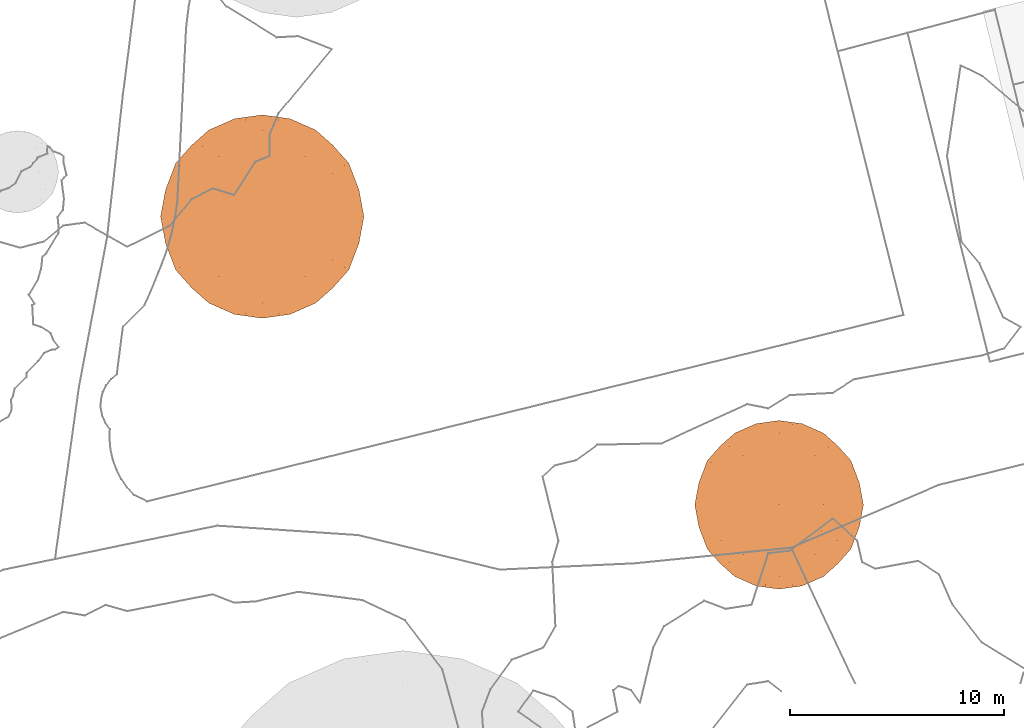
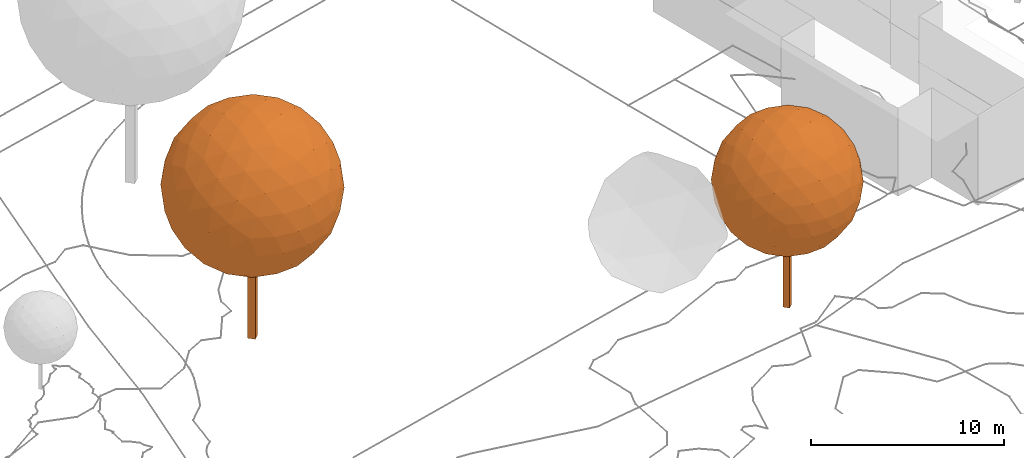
# Not in any storey, part 399 of 494: 2 proxies.
"""IFC2X3 model written with IfcOpenShell, lengths in metres."""

import ifcopenshell
import ifcopenshell.guid

model = None  # the IFC model being written
_history = None  # IfcOwnerHistory: only IFC2X3 demands one
_inside = {}  # id of a spatial element -> (the spatial element, [elements in it])
_under = {}  # id of a project, library or spatial element -> (it, [spatial elements below it])
_declared = {}  # id of a project -> (the project, [libraries it declares])
_typed = {}  # id of a type object -> (the type object, [elements of that type])
_made_of = {}  # id of a material, layer set ... -> (it, [elements and type objects made of it])


def new_model(schema):
    """Start an empty IFC model of exactly this schema.

    Asked for "IFC4X3", IfcOpenShell would pick the latest addendum, in which some entities
    have other attributes; the version numbers below select the first issue.
    IFC2X3 requires an IfcOwnerHistory on every rooted entity: one is made here for all.
    """
    global model, _history
    if schema == "IFC4X3":
        model = ifcopenshell.file(schema_version=(4, 3, 0, 0))
    else:
        model = ifcopenshell.file(schema=schema)
    _inside.clear()
    _under.clear()
    _declared.clear()
    _typed.clear()
    _made_of.clear()
    _history = None
    if model.schema == "IFC2X3":
        org = make("IfcOrganization", Name="unknown")
        user = make(
            "IfcPersonAndOrganization",
            ThePerson=make("IfcPerson", FamilyName="unknown"),
            TheOrganization=org,
        )
        app = make(
            "IfcApplication",
            ApplicationDeveloper=org,
            Version="unknown",
            ApplicationFullName="unknown",
            ApplicationIdentifier="unknown",
        )
        _history = make(
            "IfcOwnerHistory",
            OwningUser=user,
            OwningApplication=app,
            ChangeAction="ADDED",
            CreationDate=0,
        )
    return model


def make(cls, **values):
    """One entity of the class cls with the attributes given. An attribute that is None is left unset."""
    return model.create_entity(
        cls, **{name: value for name, value in values.items() if value is not None}
    )


def rooted(cls, **values):
    """An entity with a GlobalId (a new one), such as an element, a storey or a relation."""
    return make(cls, GlobalId=ifcopenshell.guid.new(), OwnerHistory=_history, **values)


def si_unit(unit_type, name, prefix=None):
    """IfcSIUnit, for example si_unit("LENGTHUNIT", "METRE", prefix="MILLI")."""
    return make("IfcSIUnit", UnitType=unit_type, Prefix=prefix, Name=name)


def assignment(units):
    """IfcUnitAssignment: the units of a project."""
    return None if units is None else make("IfcUnitAssignment", Units=units)


def point(xyz):
    """IfcCartesianPoint."""
    return None if xyz is None else make("IfcCartesianPoint", Coordinates=xyz)


def direction(xyz):
    """IfcDirection."""
    return None if xyz is None else make("IfcDirection", DirectionRatios=xyz)


def frame(location, z_axis=None, x_axis=None):
    """IfcAxis2Placement3D, a coordinate frame: its origin and axes. An axis left out is left unset."""
    return make(
        "IfcAxis2Placement3D",
        Location=point(location),
        Axis=direction(z_axis),
        RefDirection=direction(x_axis),
    )


def origin_with_axes():
    """The frame at (0, 0, 0) with the z axis (0, 0, 1) and the x axis (1, 0, 0) written out."""
    return frame((0.0, 0.0, 0.0), z_axis=(0.0, 0.0, 1.0), x_axis=(1.0, 0.0, 0.0))


def place(relative_to, where):
    """IfcLocalPlacement: puts the frame where relative to a parent placement (None: the world)."""
    return make(
        "IfcLocalPlacement", PlacementRelTo=relative_to, RelativePlacement=where
    )


def context(
    kind, dimensions, precision=None, world=None, true_north=None, identifier=None
):
    """IfcGeometricRepresentationContext, for example the 3D "Model" context."""
    return make(
        "IfcGeometricRepresentationContext",
        ContextIdentifier=identifier,
        ContextType=kind,
        CoordinateSpaceDimension=dimensions,
        Precision=precision,
        WorldCoordinateSystem=world,
        TrueNorth=true_north,
    )


def subcontext(parent, identifier, kind, view, scale=None):
    """IfcGeometricRepresentationSubContext, for example "Body" below "Model"."""
    return make(
        "IfcGeometricRepresentationSubContext",
        ContextIdentifier=identifier,
        ContextType=kind,
        ParentContext=parent,
        TargetScale=scale,
        TargetView=view,
    )


def project(units=None, contexts=None):
    """IfcProject with its units and contexts."""
    return rooted(
        "IfcProject",
        Name="project",
        RepresentationContexts=contexts,
        UnitsInContext=assignment(units),
    )


def faces_of(points, faces, orient=None, outer=None):
    """IfcFace entities. A face is a list of loops; a loop is a list of indices into points, from 0.

    orient and outer hold one flag for each loop. By default every Orientation is true, the
    first loop of a face is its IfcFaceOuterBound and the others are IfcFaceBound.
    """
    made = []
    for i, loops in enumerate(faces):
        bounds = []
        for j, loop in enumerate(loops):
            is_outer = j == 0 if outer is None else outer[i][j]
            bounds.append(
                make(
                    "IfcFaceOuterBound" if is_outer else "IfcFaceBound",
                    Bound=make("IfcPolyLoop", Polygon=[points[k] for k in loop]),
                    Orientation=True if orient is None else orient[i][j],
                )
            )
        made.append(make("IfcFace", Bounds=bounds))
    return made


def faceted_brep(points, faces, orient=None, outer=None, voids=None):
    """IfcFacetedBrep: a solid bounded by flat faces; with voids (closed shells), ...WithVoids."""
    shared = [point(p) for p in points]
    hull = make("IfcClosedShell", CfsFaces=faces_of(shared, faces, orient, outer))
    if voids is None:
        return make("IfcFacetedBrep", Outer=hull)
    return make(
        "IfcFacetedBrepWithVoids",
        Outer=hull,
        Voids=[
            make(cls, CfsFaces=faces_of(shared, fs, o, b)) for cls, fs, o, b in voids
        ],
    )


def shape(context_of_items, identifier, shape_type, items):
    """IfcShapeRepresentation: the items that make up one representation, for example the "Body"."""
    return make(
        "IfcShapeRepresentation",
        ContextOfItems=context_of_items,
        RepresentationIdentifier=identifier,
        RepresentationType=shape_type,
        Items=items,
    )


def made_of(thing, what):
    """Note that an element or type object is made of a material, layer set ...; save() writes the relation."""
    if what is not None:
        _made_of.setdefault(what.id(), (what, []))[1].append(thing)
    return thing


def element(
    cls,
    number,
    at=None,
    inside=None,
    cuts=None,
    type_object=None,
    material=None,
    context=None,
    identifier="Body",
    shape_type=None,
    held_by="IfcProductDefinitionShape",
    body=None,
    shapes=None,
    **own,
):
    """One element of the class cls, such as IfcWall. Its Tag is "e" and its number.

    at: its placement. inside: the storey or other place that contains it. cuts: it is an
    opening in that element (IfcRelVoidsElement). A single representation is given by context,
    identifier, shape_type and body (its items); several are given by shapes. held_by: the class
    of the entity that holds the representations. save() writes the other relations.
    """
    e = rooted(cls, Tag="e%d" % number, ObjectPlacement=at, **own)
    if body is not None:
        shapes = [shape(context, identifier, shape_type, body)]
    if shapes is not None:
        e.Representation = make(held_by, Representations=shapes)
    if inside is not None:
        _inside.setdefault(inside.id(), (inside, []))[1].append(e)
    if cuts is not None:
        rooted(
            "IfcRelVoidsElement", RelatingBuildingElement=cuts, RelatedOpeningElement=e
        )
    if type_object is not None:
        _typed.setdefault(type_object.id(), (type_object, []))[1].append(e)
    return made_of(e, material)


def aggregate(whole, parts):
    """IfcRelAggregates: a whole, such as a stair, and the parts it consists of."""
    return rooted("IfcRelAggregates", RelatingObject=whole, RelatedObjects=parts)


def save(model, path):
    """Write the relations noted so far, then the file.

    IfcRelAggregates (storeys below a building ...), IfcRelContainedInSpatialStructure (elements
    in a storey), IfcRelDefinesByType, IfcRelAssociatesMaterial and IfcRelDeclares: one each for
    every whole, place, type object, material and project.
    """
    for whole, parts in _under.values():
        aggregate(whole, parts)
    for where, things in _inside.values():
        rooted(
            "IfcRelContainedInSpatialStructure",
            RelatedElements=things,
            RelatingStructure=where,
        )
    for kind, things in _typed.values():
        rooted("IfcRelDefinesByType", RelatedObjects=things, RelatingType=kind)
    for what, things in _made_of.values():
        rooted("IfcRelAssociatesMaterial", RelatedObjects=things, RelatingMaterial=what)
    for by, libraries in _declared.values():
        rooted("IfcRelDeclares", RelatingContext=by, RelatedDefinitions=libraries)
    model.write(path)


model = new_model("IFC2X3")

# Units and contexts
model_context = context("Model", 3, precision=1e-05, world=origin_with_axes())
body_context = subcontext(model_context, "Body", "Model", "MODEL_VIEW")
ifc_project = project(units=[si_unit("AREAUNIT", "SQUARE_METRE"), si_unit("LENGTHUNIT", "METRE")], contexts=[model_context])

# Proxies
proxy_1_placement = place(None, frame((246.9927320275, 318.3457334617, 540.2406442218), z_axis=(0.0, 0.0, 1.0), x_axis=(1.0, 0.0, 0.0)))
element("IfcBuildingElementProxy", 1, at=proxy_1_placement, Name="Tree TR3 CD95", ObjectType="NOTDEFINED", context=body_context, shape_type="Brep", body=[
    faceted_brep([(0.0, 0.3029324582, 0.0), (0.3029324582, 0.0, 0.0), (0.0, -0.3029324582, 0.0), (-0.3029324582, 0.0, 0.0), (0.0, -0.3029324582, 9.5169038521), (0.3029324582, 0.0, 9.5169038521), (0.0, 0.3029324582, 9.5169038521), (-0.3029324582, 0.0, 9.5169038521)], [[[0, 1, 2]], [[2, 3, 0]], [[4, 5, 6]], [[6, 7, 4]], [[4, 7, 2]], [[2, 7, 3]], [[7, 6, 3]], [[3, 6, 0]], [[5, 4, 1]], [[1, 4, 2]], [[6, 5, 0]], [[0, 5, 1]]]),
    faceted_brep([(-2.5016662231, 4.0477809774, 9.5169038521), (-3.3013210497, 3.3406542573, 10.281216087), (-2.0646378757, 4.1049664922, 10.7535870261), (-3.8496684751, 2.379225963, 10.9873463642), (-2.7969478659, 3.2747236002, 11.5407943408), (-1.4704425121, 3.8496684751, 11.8961298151), (-4.1049664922, 1.236683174, 11.5815417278), (-3.2747236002, 2.0238904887, 12.313851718), (-4.0477809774, 0.0, 12.0185700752), (-3.3406542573, 0.7643122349, 12.8182249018), (-2.379225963, 1.4704425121, 13.3665723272), (-2.0238904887, 2.7969478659, 12.7916274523), (-0.7643122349, 3.3013210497, 12.8575581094), (-1.236683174, 2.0646378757, 13.6218703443), (0.0, 2.5016662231, 13.5646848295), (-1.3003256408, 4.5773374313, 9.5169038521), (-0.7730573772, 4.5255567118, 10.7677369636), (0.0, 4.7584519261, 9.5169038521), (0.0, 4.0477809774, 12.0185700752), (0.7643122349, 3.3013210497, 12.8575581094), (1.4704425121, 3.8496684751, 11.8961298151), (0.7730573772, 4.5255567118, 10.7677369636), (1.3003256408, 4.5773374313, 9.5169038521), (2.0646378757, 4.1049664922, 10.7535870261), (2.5016662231, 4.0477809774, 9.5169038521), (-2.0646378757, 4.1049664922, 8.2802206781), (-0.7730573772, 4.5255567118, 8.2660707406), (-1.4704425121, 3.8496684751, 7.1376778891), (0.7730573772, 4.5255567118, 8.2660707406), (2.0646378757, 4.1049664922, 8.2802206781), (1.4704425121, 3.8496684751, 7.1376778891), (0.0, 4.0477809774, 7.0152376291), (-0.7643122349, 3.3013210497, 6.1762495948), (0.7643122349, 3.3013210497, 6.1762495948), (0.0, 2.5016662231, 5.4691228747), (-3.3013210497, 3.3406542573, 8.7525916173), (-2.7969478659, 3.2747236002, 7.4930133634), (-3.8496684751, 2.379225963, 8.04646134), (-2.0238904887, 2.7969478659, 6.2421802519), (-1.236683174, 2.0646378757, 5.4119373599), (-2.379225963, 1.4704425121, 5.667235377), (-3.2747236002, 2.0238904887, 6.7199559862), (-4.1049664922, 1.236683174, 7.4522659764), (-3.3406542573, 0.7643122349, 6.2155828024), (-4.0477809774, 0.0, 7.0152376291), (-4.0477809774, 2.5016662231, 9.5169038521), (-4.5255567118, 1.2508331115, 8.7438464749), (-4.5773374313, 0.0, 8.2165782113), (-4.7584519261, 0.0, 9.5169038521), (-4.5255567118, 1.2508331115, 10.2899612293), (-4.5773374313, 0.0, 10.8172294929), (3.3013210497, 3.3406542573, 10.281216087), (2.7969478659, 3.2747236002, 11.5407943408), (3.8496684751, 2.379225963, 10.9873463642), (2.0238904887, 2.7969478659, 12.7916274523), (1.236683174, 2.0646378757, 13.6218703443), (2.379225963, 1.4704425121, 13.3665723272), (3.2747236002, 2.0238904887, 12.313851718), (4.1049664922, 1.236683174, 11.5815417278), (3.3406542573, 0.7643122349, 12.8182249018), (4.0477809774, 0.0, 12.0185700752), (0.0, 1.3003256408, 14.0942412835), (-1.2508331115, 0.7730573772, 14.0424605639), (0.0, 0.0, 14.2753557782), (-2.5016662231, 0.0, 13.5646848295), (-3.3406542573, -0.7643122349, 12.8182249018), (-2.379225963, -1.4704425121, 13.3665723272), (-1.2508331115, -0.7730573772, 14.0424605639), (0.0, -1.3003256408, 14.0942412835), (-1.236683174, -2.0646378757, 13.6218703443), (0.0, -2.5016662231, 13.5646848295), (-4.1049664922, -1.236683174, 11.5815417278), (-4.5255567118, -1.2508331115, 10.2899612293), (-3.8496684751, -2.379225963, 10.9873463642), (-4.5255567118, -1.2508331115, 8.7438464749), (-4.1049664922, -1.236683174, 7.4522659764), (-3.8496684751, -2.379225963, 8.04646134), (-4.0477809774, -2.5016662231, 9.5169038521), (-3.3013210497, -3.3406542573, 10.281216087), (-3.3013210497, -3.3406542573, 8.7525916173), (-2.5016662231, -4.0477809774, 9.5169038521), (-3.3406542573, -0.7643122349, 6.2155828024), (-2.5016662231, 0.0, 5.4691228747), (-2.379225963, -1.4704425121, 5.667235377), (-1.2508331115, 0.7730573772, 4.9913471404), (0.0, 1.3003256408, 4.9395664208), (0.0, 0.0, 4.7584519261), (-1.2508331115, -0.7730573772, 4.9913471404), (-1.236683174, -2.0646378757, 5.4119373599), (0.0, -1.3003256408, 4.9395664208), (0.0, -2.5016662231, 5.4691228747), (1.236683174, 2.0646378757, 5.4119373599), (2.0238904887, 2.7969478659, 6.2421802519), (2.379225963, 1.4704425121, 5.667235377), (2.7969478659, 3.2747236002, 7.4930133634), (3.3013210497, 3.3406542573, 8.7525916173), (3.8496684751, 2.379225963, 8.04646134), (3.2747236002, 2.0238904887, 6.7199559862), (3.3406542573, 0.7643122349, 6.2155828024), (4.1049664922, 1.236683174, 7.4522659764), (4.0477809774, 0.0, 7.0152376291), (2.5016662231, -4.0477809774, 9.5169038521), (3.3013210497, -3.3406542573, 10.281216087), (2.0646378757, -4.1049664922, 10.7535870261), (3.8496684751, -2.379225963, 10.9873463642), (2.7969478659, -3.2747236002, 11.5407943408), (1.4704425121, -3.8496684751, 11.8961298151), (4.1049664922, -1.236683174, 11.5815417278), (3.2747236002, -2.0238904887, 12.313851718), (3.3406542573, -0.7643122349, 12.8182249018), (2.379225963, -1.4704425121, 13.3665723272), (2.0238904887, -2.7969478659, 12.7916274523), (0.7643122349, -3.3013210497, 12.8575581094), (1.236683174, -2.0646378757, 13.6218703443), (1.3003256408, -4.5773374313, 9.5169038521), (0.7730573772, -4.5255567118, 10.7677369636), (0.0, -4.7584519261, 9.5169038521), (0.0, -4.0477809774, 12.0185700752), (-0.7643122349, -3.3013210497, 12.8575581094), (-1.4704425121, -3.8496684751, 11.8961298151), (-0.7730573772, -4.5255567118, 10.7677369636), (-1.3003256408, -4.5773374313, 9.5169038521), (-2.0646378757, -4.1049664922, 10.7535870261), (2.0646378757, -4.1049664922, 8.2802206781), (0.7730573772, -4.5255567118, 8.2660707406), (1.4704425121, -3.8496684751, 7.1376778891), (-0.7730573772, -4.5255567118, 8.2660707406), (-2.0646378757, -4.1049664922, 8.2802206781), (-1.4704425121, -3.8496684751, 7.1376778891), (0.0, -4.0477809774, 7.0152376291), (0.7643122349, -3.3013210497, 6.1762495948), (-0.7643122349, -3.3013210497, 6.1762495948), (3.3013210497, -3.3406542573, 8.7525916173), (2.7969478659, -3.2747236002, 7.4930133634), (3.8496684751, -2.379225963, 8.04646134), (2.0238904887, -2.7969478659, 6.2421802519), (1.236683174, -2.0646378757, 5.4119373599), (2.379225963, -1.4704425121, 5.667235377), (3.2747236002, -2.0238904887, 6.7199559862), (4.1049664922, -1.236683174, 7.4522659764), (3.3406542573, -0.7643122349, 6.2155828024), (4.0477809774, -2.5016662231, 9.5169038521), (4.5255567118, -1.2508331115, 8.7438464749), (4.5773374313, 0.0, 8.2165782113), (4.7584519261, 0.0, 9.5169038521), (4.5255567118, -1.2508331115, 10.2899612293), (4.5773374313, 0.0, 10.8172294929), (1.2508331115, -0.7730573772, 14.0424605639), (2.5016662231, 0.0, 13.5646848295), (1.2508331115, 0.7730573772, 14.0424605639), (-2.7969478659, -3.2747236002, 11.5407943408), (-2.0238904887, -2.7969478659, 12.7916274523), (-3.2747236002, -2.0238904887, 12.313851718), (-2.0238904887, -2.7969478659, 6.2421802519), (-2.7969478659, -3.2747236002, 7.4930133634), (-3.2747236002, -2.0238904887, 6.7199559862), (2.5016662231, 0.0, 5.4691228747), (1.2508331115, -0.7730573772, 4.9913471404), (1.2508331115, 0.7730573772, 4.9913471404), (4.5255567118, 1.2508331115, 10.2899612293), (4.5255567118, 1.2508331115, 8.7438464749), (4.0477809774, 2.5016662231, 9.5169038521)], [[[0, 1, 2]], [[1, 3, 4]], [[2, 4, 5]], [[1, 4, 2]], [[3, 6, 7]], [[6, 8, 9]], [[7, 9, 10]], [[6, 9, 7]], [[5, 11, 12]], [[11, 10, 13]], [[12, 13, 14]], [[11, 13, 12]], [[3, 7, 4]], [[7, 10, 11]], [[4, 11, 5]], [[7, 11, 4]], [[0, 2, 15]], [[2, 5, 16]], [[15, 16, 17]], [[2, 16, 15]], [[5, 12, 18]], [[12, 14, 19]], [[18, 19, 20]], [[12, 19, 18]], [[17, 21, 22]], [[21, 20, 23]], [[22, 23, 24]], [[21, 23, 22]], [[5, 18, 16]], [[18, 20, 21]], [[16, 21, 17]], [[18, 21, 16]], [[0, 15, 25]], [[15, 17, 26]], [[25, 26, 27]], [[15, 26, 25]], [[17, 22, 28]], [[22, 24, 29]], [[28, 29, 30]], [[22, 29, 28]], [[27, 31, 32]], [[31, 30, 33]], [[32, 33, 34]], [[31, 33, 32]], [[17, 28, 26]], [[28, 30, 31]], [[26, 31, 27]], [[28, 31, 26]], [[0, 25, 35]], [[25, 27, 36]], [[35, 36, 37]], [[25, 36, 35]], [[27, 32, 38]], [[32, 34, 39]], [[38, 39, 40]], [[32, 39, 38]], [[37, 41, 42]], [[41, 40, 43]], [[42, 43, 44]], [[41, 43, 42]], [[27, 38, 36]], [[38, 40, 41]], [[36, 41, 37]], [[38, 41, 36]], [[0, 35, 1]], [[35, 37, 45]], [[1, 45, 3]], [[35, 45, 1]], [[37, 42, 46]], [[42, 44, 47]], [[46, 47, 48]], [[42, 47, 46]], [[3, 49, 6]], [[49, 48, 50]], [[6, 50, 8]], [[49, 50, 6]], [[37, 46, 45]], [[46, 48, 49]], [[45, 49, 3]], [[46, 49, 45]], [[24, 23, 51]], [[23, 20, 52]], [[51, 52, 53]], [[23, 52, 51]], [[20, 19, 54]], [[19, 14, 55]], [[54, 55, 56]], [[19, 55, 54]], [[53, 57, 58]], [[57, 56, 59]], [[58, 59, 60]], [[57, 59, 58]], [[20, 54, 52]], [[54, 56, 57]], [[52, 57, 53]], [[54, 57, 52]], [[14, 13, 61]], [[13, 10, 62]], [[61, 62, 63]], [[13, 62, 61]], [[10, 9, 64]], [[9, 8, 65]], [[64, 65, 66]], [[9, 65, 64]], [[63, 67, 68]], [[67, 66, 69]], [[68, 69, 70]], [[67, 69, 68]], [[10, 64, 62]], [[64, 66, 67]], [[62, 67, 63]], [[64, 67, 62]], [[8, 50, 71]], [[50, 48, 72]], [[71, 72, 73]], [[50, 72, 71]], [[48, 47, 74]], [[47, 44, 75]], [[74, 75, 76]], [[47, 75, 74]], [[73, 77, 78]], [[77, 76, 79]], [[78, 79, 80]], [[77, 79, 78]], [[48, 74, 72]], [[74, 76, 77]], [[72, 77, 73]], [[74, 77, 72]], [[44, 43, 81]], [[43, 40, 82]], [[81, 82, 83]], [[43, 82, 81]], [[40, 39, 84]], [[39, 34, 85]], [[84, 85, 86]], [[39, 85, 84]], [[83, 87, 88]], [[87, 86, 89]], [[88, 89, 90]], [[87, 89, 88]], [[40, 84, 82]], [[84, 86, 87]], [[82, 87, 83]], [[84, 87, 82]], [[34, 33, 91]], [[33, 30, 92]], [[91, 92, 93]], [[33, 92, 91]], [[30, 29, 94]], [[29, 24, 95]], [[94, 95, 96]], [[29, 95, 94]], [[93, 97, 98]], [[97, 96, 99]], [[98, 99, 100]], [[97, 99, 98]], [[30, 94, 92]], [[94, 96, 97]], [[92, 97, 93]], [[94, 97, 92]], [[101, 102, 103]], [[102, 104, 105]], [[103, 105, 106]], [[102, 105, 103]], [[104, 107, 108]], [[107, 60, 109]], [[108, 109, 110]], [[107, 109, 108]], [[106, 111, 112]], [[111, 110, 113]], [[112, 113, 70]], [[111, 113, 112]], [[104, 108, 105]], [[108, 110, 111]], [[105, 111, 106]], [[108, 111, 105]], [[101, 103, 114]], [[103, 106, 115]], [[114, 115, 116]], [[103, 115, 114]], [[106, 112, 117]], [[112, 70, 118]], [[117, 118, 119]], [[112, 118, 117]], [[116, 120, 121]], [[120, 119, 122]], [[121, 122, 80]], [[120, 122, 121]], [[106, 117, 115]], [[117, 119, 120]], [[115, 120, 116]], [[117, 120, 115]], [[101, 114, 123]], [[114, 116, 124]], [[123, 124, 125]], [[114, 124, 123]], [[116, 121, 126]], [[121, 80, 127]], [[126, 127, 128]], [[121, 127, 126]], [[125, 129, 130]], [[129, 128, 131]], [[130, 131, 90]], [[129, 131, 130]], [[116, 126, 124]], [[126, 128, 129]], [[124, 129, 125]], [[126, 129, 124]], [[101, 123, 132]], [[123, 125, 133]], [[132, 133, 134]], [[123, 133, 132]], [[125, 130, 135]], [[130, 90, 136]], [[135, 136, 137]], [[130, 136, 135]], [[134, 138, 139]], [[138, 137, 140]], [[139, 140, 100]], [[138, 140, 139]], [[125, 135, 133]], [[135, 137, 138]], [[133, 138, 134]], [[135, 138, 133]], [[101, 132, 102]], [[132, 134, 141]], [[102, 141, 104]], [[132, 141, 102]], [[134, 139, 142]], [[139, 100, 143]], [[142, 143, 144]], [[139, 143, 142]], [[104, 145, 107]], [[145, 144, 146]], [[107, 146, 60]], [[145, 146, 107]], [[134, 142, 141]], [[142, 144, 145]], [[141, 145, 104]], [[142, 145, 141]], [[70, 113, 68]], [[113, 110, 147]], [[68, 147, 63]], [[113, 147, 68]], [[110, 109, 148]], [[109, 60, 59]], [[148, 59, 56]], [[109, 59, 148]], [[63, 149, 61]], [[149, 56, 55]], [[61, 55, 14]], [[149, 55, 61]], [[110, 148, 147]], [[148, 56, 149]], [[147, 149, 63]], [[148, 149, 147]], [[80, 122, 78]], [[122, 119, 150]], [[78, 150, 73]], [[122, 150, 78]], [[119, 118, 151]], [[118, 70, 69]], [[151, 69, 66]], [[118, 69, 151]], [[73, 152, 71]], [[152, 66, 65]], [[71, 65, 8]], [[152, 65, 71]], [[119, 151, 150]], [[151, 66, 152]], [[150, 152, 73]], [[151, 152, 150]], [[90, 131, 88]], [[131, 128, 153]], [[88, 153, 83]], [[131, 153, 88]], [[128, 127, 154]], [[127, 80, 79]], [[154, 79, 76]], [[127, 79, 154]], [[83, 155, 81]], [[155, 76, 75]], [[81, 75, 44]], [[155, 75, 81]], [[128, 154, 153]], [[154, 76, 155]], [[153, 155, 83]], [[154, 155, 153]], [[100, 140, 98]], [[140, 137, 156]], [[98, 156, 93]], [[140, 156, 98]], [[137, 136, 157]], [[136, 90, 89]], [[157, 89, 86]], [[136, 89, 157]], [[93, 158, 91]], [[158, 86, 85]], [[91, 85, 34]], [[158, 85, 91]], [[137, 157, 156]], [[157, 86, 158]], [[156, 158, 93]], [[157, 158, 156]], [[60, 146, 58]], [[146, 144, 159]], [[58, 159, 53]], [[146, 159, 58]], [[144, 143, 160]], [[143, 100, 99]], [[160, 99, 96]], [[143, 99, 160]], [[53, 161, 51]], [[161, 96, 95]], [[51, 95, 24]], [[161, 95, 51]], [[144, 160, 159]], [[160, 96, 161]], [[159, 161, 53]], [[160, 161, 159]]]),
])
proxy_2_placement = place(None, frame((271.1757320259, 304.857733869, 541.8943407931), z_axis=(0.0, 0.0, 1.0), x_axis=(1.0, 0.0, 0.0)))
element("IfcBuildingElementProxy", 2, at=proxy_2_placement, Name="Tree TR2 CD78", ObjectType="NOTDEFINED", context=body_context, shape_type="Brep", body=[
    faceted_brep([(0.0, 0.251183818, 0.0), (0.251183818, 0.0, 0.0), (0.0, -0.251183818, 0.0), (-0.251183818, 0.0, 0.0), (0.0, -0.251183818, 7.8911723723), (0.251183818, 0.0, 7.8911723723), (0.0, 0.251183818, 7.8911723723), (-0.251183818, 0.0, 7.8911723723)], [[[0, 1, 2]], [[2, 3, 0]], [[4, 5, 6]], [[6, 7, 4]], [[4, 7, 2]], [[2, 7, 3]], [[7, 6, 3]], [[3, 6, 0]], [[5, 4, 1]], [[1, 4, 2]], [[6, 5, 0]], [[0, 5, 1]]]),
    faceted_brep([(-2.0743174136, 3.3563160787, 7.8911723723), (-2.7373706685, 2.7699847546, 8.5249204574), (-1.7119447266, 3.4037328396, 8.9165983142), (-3.1920462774, 1.9727930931, 9.1104255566), (-2.3191573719, 2.7153167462, 9.5693304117), (-1.2192531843, 3.1920462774, 9.8639654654), (-3.4037328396, 1.0254259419, 9.603117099), (-2.7153167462, 1.6781580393, 10.2103297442), (-3.3563160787, 0.0, 9.965489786), (-2.7699847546, 0.633748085, 10.6285430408), (-1.9727930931, 1.2192531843, 11.0832186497), (-1.6781580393, 2.3191573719, 10.6064891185), (-0.633748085, 2.7373706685, 10.6611571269), (-1.0254259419, 1.7119447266, 11.2949052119), (0.0, 2.0743174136, 11.247488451), (-1.0781966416, 3.7954106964, 7.8911723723), (-0.6409993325, 3.752475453, 8.9283310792), (0.0, 3.9455861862, 7.8911723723), (0.0, 3.3563160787, 9.965489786), (0.633748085, 2.7373706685, 10.6611571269), (1.2192531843, 3.1920462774, 9.8639654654), (0.6409993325, 3.752475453, 8.9283310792), (1.0781966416, 3.7954106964, 7.8911723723), (1.7119447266, 3.4037328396, 8.9165983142), (2.0743174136, 3.3563160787, 7.8911723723), (-1.7119447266, 3.4037328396, 6.8657464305), (-0.6409993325, 3.752475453, 6.8540136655), (-1.2192531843, 3.1920462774, 5.9183792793), (0.6409993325, 3.752475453, 6.8540136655), (1.7119447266, 3.4037328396, 6.8657464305), (1.2192531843, 3.1920462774, 5.9183792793), (0.0, 3.3563160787, 5.8168549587), (-0.633748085, 2.7373706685, 5.1211876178), (0.633748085, 2.7373706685, 5.1211876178), (0.0, 2.0743174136, 4.5348562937), (-2.7373706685, 2.7699847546, 7.2574242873), (-2.3191573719, 2.7153167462, 6.213014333), (-3.1920462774, 1.9727930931, 6.671919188), (-1.6781580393, 2.3191573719, 5.1758556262), (-1.0254259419, 1.7119447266, 4.4874395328), (-1.9727930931, 1.2192531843, 4.699126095), (-2.7153167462, 1.6781580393, 5.5720150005), (-3.4037328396, 1.0254259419, 6.1792276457), (-2.7699847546, 0.633748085, 5.1538017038), (-3.3563160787, 0.0, 5.8168549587), (-3.3563160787, 2.0743174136, 7.8911723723), (-3.752475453, 1.0371587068, 7.2501730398), (-3.7954106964, 0.0, 6.8129757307), (-3.9455861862, 0.0, 7.8911723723), (-3.752475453, 1.0371587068, 8.5321717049), (-3.7954106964, 0.0, 8.969369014), (2.7373706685, 2.7699847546, 8.5249204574), (2.3191573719, 2.7153167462, 9.5693304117), (3.1920462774, 1.9727930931, 9.1104255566), (1.6781580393, 2.3191573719, 10.6064891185), (1.0254259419, 1.7119447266, 11.2949052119), (1.9727930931, 1.2192531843, 11.0832186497), (2.7153167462, 1.6781580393, 10.2103297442), (3.4037328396, 1.0254259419, 9.603117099), (2.7699847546, 0.633748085, 10.6285430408), (3.3563160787, 0.0, 9.965489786), (0.0, 1.0781966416, 11.6865830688), (-1.0371587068, 0.6409993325, 11.6436478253), (0.0, 0.0, 11.8367585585), (-2.0743174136, 0.0, 11.247488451), (-2.7699847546, -0.633748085, 10.6285430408), (-1.9727930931, -1.2192531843, 11.0832186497), (-1.0371587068, -0.6409993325, 11.6436478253), (0.0, -1.0781966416, 11.6865830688), (-1.0254259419, -1.7119447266, 11.2949052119), (0.0, -2.0743174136, 11.247488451), (-3.4037328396, -1.0254259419, 9.603117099), (-3.752475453, -1.0371587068, 8.5321717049), (-3.1920462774, -1.9727930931, 9.1104255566), (-3.752475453, -1.0371587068, 7.2501730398), (-3.4037328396, -1.0254259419, 6.1792276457), (-3.1920462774, -1.9727930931, 6.671919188), (-3.3563160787, -2.0743174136, 7.8911723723), (-2.7373706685, -2.7699847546, 8.5249204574), (-2.7373706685, -2.7699847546, 7.2574242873), (-2.0743174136, -3.3563160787, 7.8911723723), (-2.7699847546, -0.633748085, 5.1538017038), (-2.0743174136, 0.0, 4.5348562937), (-1.9727930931, -1.2192531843, 4.699126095), (-1.0371587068, 0.6409993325, 4.1386969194), (0.0, 1.0781966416, 4.0957616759), (0.0, 0.0, 3.9455861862), (-1.0371587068, -0.6409993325, 4.1386969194), (-1.0254259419, -1.7119447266, 4.4874395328), (0.0, -1.0781966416, 4.0957616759), (0.0, -2.0743174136, 4.5348562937), (1.0254259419, 1.7119447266, 4.4874395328), (1.6781580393, 2.3191573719, 5.1758556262), (1.9727930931, 1.2192531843, 4.699126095), (2.3191573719, 2.7153167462, 6.213014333), (2.7373706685, 2.7699847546, 7.2574242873), (3.1920462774, 1.9727930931, 6.671919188), (2.7153167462, 1.6781580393, 5.5720150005), (2.7699847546, 0.633748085, 5.1538017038), (3.4037328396, 1.0254259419, 6.1792276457), (3.3563160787, 0.0, 5.8168549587), (2.0743174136, -3.3563160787, 7.8911723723), (2.7373706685, -2.7699847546, 8.5249204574), (1.7119447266, -3.4037328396, 8.9165983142), (3.1920462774, -1.9727930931, 9.1104255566), (2.3191573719, -2.7153167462, 9.5693304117), (1.2192531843, -3.1920462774, 9.8639654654), (3.4037328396, -1.0254259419, 9.603117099), (2.7153167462, -1.6781580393, 10.2103297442), (2.7699847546, -0.633748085, 10.6285430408), (1.9727930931, -1.2192531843, 11.0832186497), (1.6781580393, -2.3191573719, 10.6064891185), (0.633748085, -2.7373706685, 10.6611571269), (1.0254259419, -1.7119447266, 11.2949052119), (1.0781966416, -3.7954106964, 7.8911723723), (0.6409993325, -3.752475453, 8.9283310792), (0.0, -3.9455861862, 7.8911723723), (0.0, -3.3563160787, 9.965489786), (-0.633748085, -2.7373706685, 10.6611571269), (-1.2192531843, -3.1920462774, 9.8639654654), (-0.6409993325, -3.752475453, 8.9283310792), (-1.0781966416, -3.7954106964, 7.8911723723), (-1.7119447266, -3.4037328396, 8.9165983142), (1.7119447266, -3.4037328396, 6.8657464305), (0.6409993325, -3.752475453, 6.8540136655), (1.2192531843, -3.1920462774, 5.9183792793), (-0.6409993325, -3.752475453, 6.8540136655), (-1.7119447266, -3.4037328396, 6.8657464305), (-1.2192531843, -3.1920462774, 5.9183792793), (0.0, -3.3563160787, 5.8168549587), (0.633748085, -2.7373706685, 5.1211876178), (-0.633748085, -2.7373706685, 5.1211876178), (2.7373706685, -2.7699847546, 7.2574242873), (2.3191573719, -2.7153167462, 6.213014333), (3.1920462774, -1.9727930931, 6.671919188), (1.6781580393, -2.3191573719, 5.1758556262), (1.0254259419, -1.7119447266, 4.4874395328), (1.9727930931, -1.2192531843, 4.699126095), (2.7153167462, -1.6781580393, 5.5720150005), (3.4037328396, -1.0254259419, 6.1792276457), (2.7699847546, -0.633748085, 5.1538017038), (3.3563160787, -2.0743174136, 7.8911723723), (3.752475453, -1.0371587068, 7.2501730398), (3.7954106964, 0.0, 6.8129757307), (3.9455861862, 0.0, 7.8911723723), (3.752475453, -1.0371587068, 8.5321717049), (3.7954106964, 0.0, 8.969369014), (1.0371587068, -0.6409993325, 11.6436478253), (2.0743174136, 0.0, 11.247488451), (1.0371587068, 0.6409993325, 11.6436478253), (-2.3191573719, -2.7153167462, 9.5693304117), (-1.6781580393, -2.3191573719, 10.6064891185), (-2.7153167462, -1.6781580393, 10.2103297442), (-1.6781580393, -2.3191573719, 5.1758556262), (-2.3191573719, -2.7153167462, 6.213014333), (-2.7153167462, -1.6781580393, 5.5720150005), (2.0743174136, 0.0, 4.5348562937), (1.0371587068, -0.6409993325, 4.1386969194), (1.0371587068, 0.6409993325, 4.1386969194), (3.752475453, 1.0371587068, 8.5321717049), (3.752475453, 1.0371587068, 7.2501730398), (3.3563160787, 2.0743174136, 7.8911723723)], [[[0, 1, 2]], [[1, 3, 4]], [[2, 4, 5]], [[1, 4, 2]], [[3, 6, 7]], [[6, 8, 9]], [[7, 9, 10]], [[6, 9, 7]], [[5, 11, 12]], [[11, 10, 13]], [[12, 13, 14]], [[11, 13, 12]], [[3, 7, 4]], [[7, 10, 11]], [[4, 11, 5]], [[7, 11, 4]], [[0, 2, 15]], [[2, 5, 16]], [[15, 16, 17]], [[2, 16, 15]], [[5, 12, 18]], [[12, 14, 19]], [[18, 19, 20]], [[12, 19, 18]], [[17, 21, 22]], [[21, 20, 23]], [[22, 23, 24]], [[21, 23, 22]], [[5, 18, 16]], [[18, 20, 21]], [[16, 21, 17]], [[18, 21, 16]], [[0, 15, 25]], [[15, 17, 26]], [[25, 26, 27]], [[15, 26, 25]], [[17, 22, 28]], [[22, 24, 29]], [[28, 29, 30]], [[22, 29, 28]], [[27, 31, 32]], [[31, 30, 33]], [[32, 33, 34]], [[31, 33, 32]], [[17, 28, 26]], [[28, 30, 31]], [[26, 31, 27]], [[28, 31, 26]], [[0, 25, 35]], [[25, 27, 36]], [[35, 36, 37]], [[25, 36, 35]], [[27, 32, 38]], [[32, 34, 39]], [[38, 39, 40]], [[32, 39, 38]], [[37, 41, 42]], [[41, 40, 43]], [[42, 43, 44]], [[41, 43, 42]], [[27, 38, 36]], [[38, 40, 41]], [[36, 41, 37]], [[38, 41, 36]], [[0, 35, 1]], [[35, 37, 45]], [[1, 45, 3]], [[35, 45, 1]], [[37, 42, 46]], [[42, 44, 47]], [[46, 47, 48]], [[42, 47, 46]], [[3, 49, 6]], [[49, 48, 50]], [[6, 50, 8]], [[49, 50, 6]], [[37, 46, 45]], [[46, 48, 49]], [[45, 49, 3]], [[46, 49, 45]], [[24, 23, 51]], [[23, 20, 52]], [[51, 52, 53]], [[23, 52, 51]], [[20, 19, 54]], [[19, 14, 55]], [[54, 55, 56]], [[19, 55, 54]], [[53, 57, 58]], [[57, 56, 59]], [[58, 59, 60]], [[57, 59, 58]], [[20, 54, 52]], [[54, 56, 57]], [[52, 57, 53]], [[54, 57, 52]], [[14, 13, 61]], [[13, 10, 62]], [[61, 62, 63]], [[13, 62, 61]], [[10, 9, 64]], [[9, 8, 65]], [[64, 65, 66]], [[9, 65, 64]], [[63, 67, 68]], [[67, 66, 69]], [[68, 69, 70]], [[67, 69, 68]], [[10, 64, 62]], [[64, 66, 67]], [[62, 67, 63]], [[64, 67, 62]], [[8, 50, 71]], [[50, 48, 72]], [[71, 72, 73]], [[50, 72, 71]], [[48, 47, 74]], [[47, 44, 75]], [[74, 75, 76]], [[47, 75, 74]], [[73, 77, 78]], [[77, 76, 79]], [[78, 79, 80]], [[77, 79, 78]], [[48, 74, 72]], [[74, 76, 77]], [[72, 77, 73]], [[74, 77, 72]], [[44, 43, 81]], [[43, 40, 82]], [[81, 82, 83]], [[43, 82, 81]], [[40, 39, 84]], [[39, 34, 85]], [[84, 85, 86]], [[39, 85, 84]], [[83, 87, 88]], [[87, 86, 89]], [[88, 89, 90]], [[87, 89, 88]], [[40, 84, 82]], [[84, 86, 87]], [[82, 87, 83]], [[84, 87, 82]], [[34, 33, 91]], [[33, 30, 92]], [[91, 92, 93]], [[33, 92, 91]], [[30, 29, 94]], [[29, 24, 95]], [[94, 95, 96]], [[29, 95, 94]], [[93, 97, 98]], [[97, 96, 99]], [[98, 99, 100]], [[97, 99, 98]], [[30, 94, 92]], [[94, 96, 97]], [[92, 97, 93]], [[94, 97, 92]], [[101, 102, 103]], [[102, 104, 105]], [[103, 105, 106]], [[102, 105, 103]], [[104, 107, 108]], [[107, 60, 109]], [[108, 109, 110]], [[107, 109, 108]], [[106, 111, 112]], [[111, 110, 113]], [[112, 113, 70]], [[111, 113, 112]], [[104, 108, 105]], [[108, 110, 111]], [[105, 111, 106]], [[108, 111, 105]], [[101, 103, 114]], [[103, 106, 115]], [[114, 115, 116]], [[103, 115, 114]], [[106, 112, 117]], [[112, 70, 118]], [[117, 118, 119]], [[112, 118, 117]], [[116, 120, 121]], [[120, 119, 122]], [[121, 122, 80]], [[120, 122, 121]], [[106, 117, 115]], [[117, 119, 120]], [[115, 120, 116]], [[117, 120, 115]], [[101, 114, 123]], [[114, 116, 124]], [[123, 124, 125]], [[114, 124, 123]], [[116, 121, 126]], [[121, 80, 127]], [[126, 127, 128]], [[121, 127, 126]], [[125, 129, 130]], [[129, 128, 131]], [[130, 131, 90]], [[129, 131, 130]], [[116, 126, 124]], [[126, 128, 129]], [[124, 129, 125]], [[126, 129, 124]], [[101, 123, 132]], [[123, 125, 133]], [[132, 133, 134]], [[123, 133, 132]], [[125, 130, 135]], [[130, 90, 136]], [[135, 136, 137]], [[130, 136, 135]], [[134, 138, 139]], [[138, 137, 140]], [[139, 140, 100]], [[138, 140, 139]], [[125, 135, 133]], [[135, 137, 138]], [[133, 138, 134]], [[135, 138, 133]], [[101, 132, 102]], [[132, 134, 141]], [[102, 141, 104]], [[132, 141, 102]], [[134, 139, 142]], [[139, 100, 143]], [[142, 143, 144]], [[139, 143, 142]], [[104, 145, 107]], [[145, 144, 146]], [[107, 146, 60]], [[145, 146, 107]], [[134, 142, 141]], [[142, 144, 145]], [[141, 145, 104]], [[142, 145, 141]], [[70, 113, 68]], [[113, 110, 147]], [[68, 147, 63]], [[113, 147, 68]], [[110, 109, 148]], [[109, 60, 59]], [[148, 59, 56]], [[109, 59, 148]], [[63, 149, 61]], [[149, 56, 55]], [[61, 55, 14]], [[149, 55, 61]], [[110, 148, 147]], [[148, 56, 149]], [[147, 149, 63]], [[148, 149, 147]], [[80, 122, 78]], [[122, 119, 150]], [[78, 150, 73]], [[122, 150, 78]], [[119, 118, 151]], [[118, 70, 69]], [[151, 69, 66]], [[118, 69, 151]], [[73, 152, 71]], [[152, 66, 65]], [[71, 65, 8]], [[152, 65, 71]], [[119, 151, 150]], [[151, 66, 152]], [[150, 152, 73]], [[151, 152, 150]], [[90, 131, 88]], [[131, 128, 153]], [[88, 153, 83]], [[131, 153, 88]], [[128, 127, 154]], [[127, 80, 79]], [[154, 79, 76]], [[127, 79, 154]], [[83, 155, 81]], [[155, 76, 75]], [[81, 75, 44]], [[155, 75, 81]], [[128, 154, 153]], [[154, 76, 155]], [[153, 155, 83]], [[154, 155, 153]], [[100, 140, 98]], [[140, 137, 156]], [[98, 156, 93]], [[140, 156, 98]], [[137, 136, 157]], [[136, 90, 89]], [[157, 89, 86]], [[136, 89, 157]], [[93, 158, 91]], [[158, 86, 85]], [[91, 85, 34]], [[158, 85, 91]], [[137, 157, 156]], [[157, 86, 158]], [[156, 158, 93]], [[157, 158, 156]], [[60, 146, 58]], [[146, 144, 159]], [[58, 159, 53]], [[146, 159, 58]], [[144, 143, 160]], [[143, 100, 99]], [[160, 99, 96]], [[143, 99, 160]], [[53, 161, 51]], [[161, 96, 95]], [[51, 95, 24]], [[161, 95, 51]], [[144, 160, 159]], [[160, 96, 161]], [[159, 161, 53]], [[160, 161, 159]]]),
])

save(model, "model.ifc")
